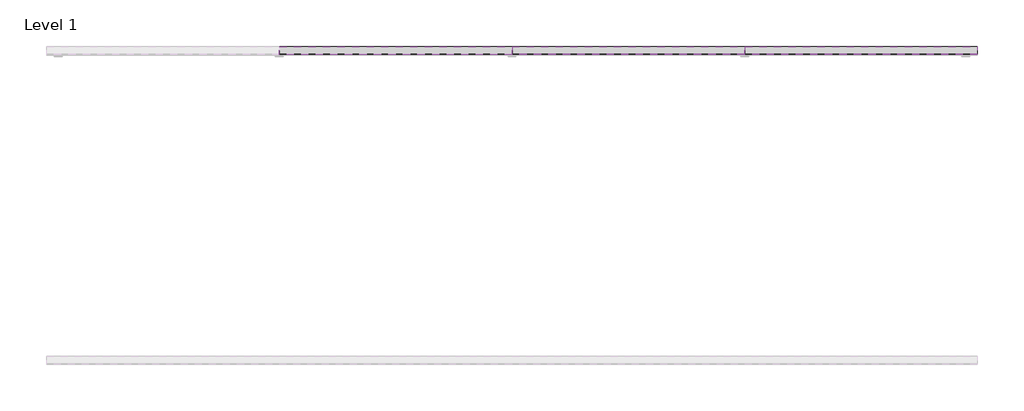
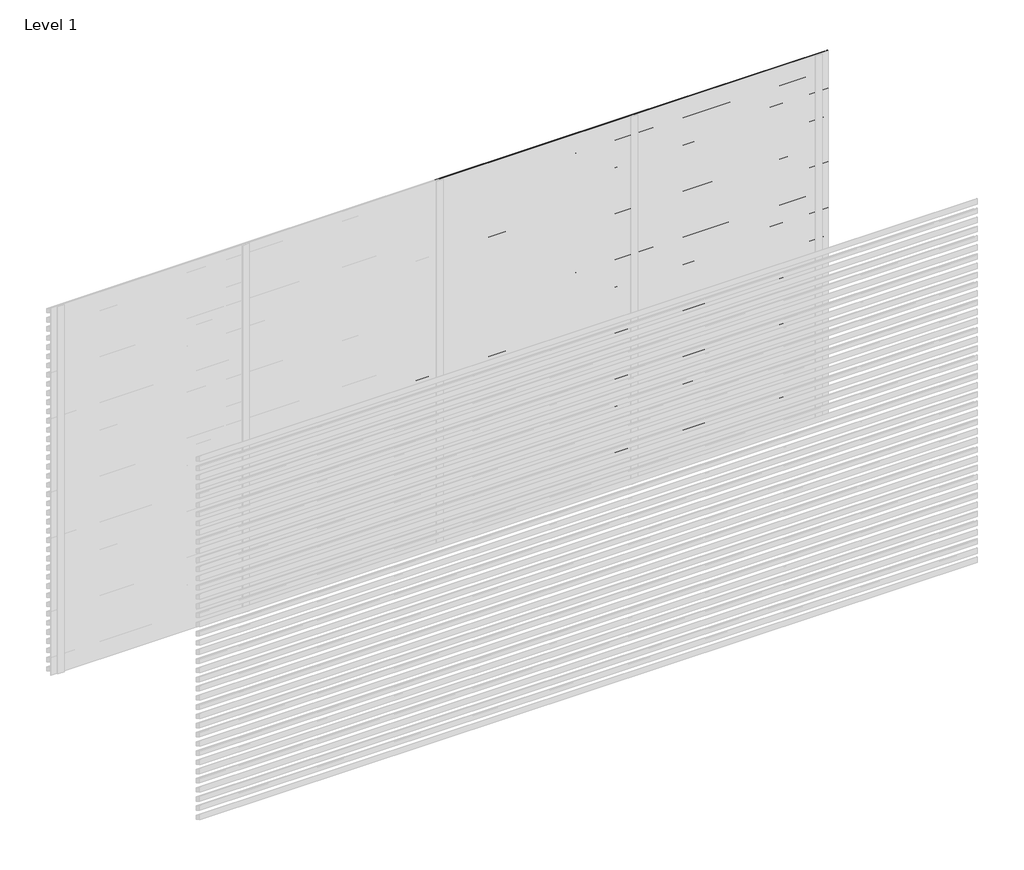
# One storey, part 9 of 9: 100 proxies.
"""IFC4 building model written with IfcOpenShell, lengths in millimetres."""

from ifc_helpers import new_model, si_unit, frame, origin, place, context, project, spatial, polyline, outline, extrude, element, save

model = new_model("IFC4")

# Units and contexts
model_context = context("Model", 3, world=origin())
ifc_project = project(units=[si_unit("LENGTHUNIT", "METRE", prefix="MILLI")], contexts=[model_context])

# Site, building, storey
site = spatial("IfcSite", under=ifc_project)
building = spatial("IfcBuilding", under=site)
storey = spatial("IfcBuildingStorey", under=building, Name="Level 1", Elevation=0.0)

# Proxies
placement = place(None, origin())
element("IfcBuildingElementProxy", 1, Name="Wall Sweeps", at=placement, inside=storey, context=model_context, shape_type="SweptSolid", body=[
    extrude(outline(polyline([(5.0, 1500.0), (5.0, 1491.2901632), (54.0, 1463.0), (54.0, 1428.0), (3.0, 1457.4448637), (3.0, 1500.0), (5.0, 1500.0)])), frame((1500.0, 0.0, 0.0), z_axis=(1.0, 0.0, 0.0), x_axis=(0.0, 1.0, 0.0)), (0.0, 0.0, 1.0), 1500.0),
])
element("IfcBuildingElementProxy", 2, Name="Wall Sweeps", at=placement, inside=storey, context=model_context, shape_type="SweptSolid", body=[
    extrude(outline(polyline([(5.0, 1425.0), (5.0, 1416.2901632), (54.0, 1388.0), (54.0, 1353.0), (3.0, 1382.4448637), (3.0, 1425.0), (5.0, 1425.0)])), frame((1500.0, 0.0, 0.0), z_axis=(1.0, 0.0, 0.0), x_axis=(0.0, 1.0, 0.0)), (0.0, 0.0, 1.0), 1500.0),
])
element("IfcBuildingElementProxy", 3, Name="Wall Sweeps", at=placement, inside=storey, context=model_context, shape_type="SweptSolid", body=[
    extrude(outline(polyline([(5.0, 1350.0), (5.0, 1341.2901632), (54.0, 1313.0), (54.0, 1278.0), (3.0, 1307.4448637), (3.0, 1350.0), (5.0, 1350.0)])), frame((1500.0, 0.0, 0.0), z_axis=(1.0, 0.0, 0.0), x_axis=(0.0, 1.0, 0.0)), (0.0, 0.0, 1.0), 1500.0),
])
element("IfcBuildingElementProxy", 4, Name="Wall Sweeps", at=placement, inside=storey, context=model_context, shape_type="SweptSolid", body=[
    extrude(outline(polyline([(5.0, 1275.0), (5.0, 1266.2901632), (54.0, 1238.0), (54.0, 1203.0), (3.0, 1232.4448637), (3.0, 1275.0), (5.0, 1275.0)])), frame((1500.0, 0.0, 0.0), z_axis=(1.0, 0.0, 0.0), x_axis=(0.0, 1.0, 0.0)), (0.0, 0.0, 1.0), 1500.0),
])
element("IfcBuildingElementProxy", 5, Name="Wall Sweeps", at=placement, inside=storey, context=model_context, shape_type="SweptSolid", body=[
    extrude(outline(polyline([(5.0, 1200.0), (5.0, 1191.2901632), (54.0, 1163.0), (54.0, 1128.0), (3.0, 1157.4448637), (3.0, 1200.0), (5.0, 1200.0)])), frame((1500.0, 0.0, 0.0), z_axis=(1.0, 0.0, 0.0), x_axis=(0.0, 1.0, 0.0)), (0.0, 0.0, 1.0), 1500.0),
])
element("IfcBuildingElementProxy", 6, Name="Wall Sweeps", at=placement, inside=storey, context=model_context, shape_type="SweptSolid", body=[
    extrude(outline(polyline([(5.0, 1125.0), (5.0, 1116.2901632), (54.0, 1088.0), (54.0, 1053.0), (3.0, 1082.4448637), (3.0, 1125.0), (5.0, 1125.0)])), frame((1500.0, 0.0, 0.0), z_axis=(1.0, 0.0, 0.0), x_axis=(0.0, 1.0, 0.0)), (0.0, 0.0, 1.0), 1500.0),
])
element("IfcBuildingElementProxy", 7, Name="Wall Sweeps", at=placement, inside=storey, context=model_context, shape_type="SweptSolid", body=[
    extrude(outline(polyline([(5.0, 1050.0), (5.0, 1041.2901632), (54.0, 1013.0), (54.0, 978.0), (3.0, 1007.4448637), (3.0, 1050.0), (5.0, 1050.0)])), frame((1500.0, 0.0, 0.0), z_axis=(1.0, 0.0, 0.0), x_axis=(0.0, 1.0, 0.0)), (0.0, 0.0, 1.0), 1500.0),
])
element("IfcBuildingElementProxy", 8, Name="Wall Sweeps", at=placement, inside=storey, context=model_context, shape_type="SweptSolid", body=[
    extrude(outline(polyline([(5.0, 975.0), (5.0, 966.2901632), (54.0, 938.0), (54.0, 903.0), (3.0, 932.4448637), (3.0, 975.0), (5.0, 975.0)])), frame((1500.0, 0.0, 0.0), z_axis=(1.0, 0.0, 0.0), x_axis=(0.0, 1.0, 0.0)), (0.0, 0.0, 1.0), 1500.0),
])
element("IfcBuildingElementProxy", 9, Name="Wall Sweeps", at=placement, inside=storey, context=model_context, shape_type="SweptSolid", body=[
    extrude(outline(polyline([(5.0, 900.0), (5.0, 891.2901632), (54.0, 863.0), (54.0, 828.0), (3.0, 857.4448637), (3.0, 900.0), (5.0, 900.0)])), frame((1500.0, 0.0, 0.0), z_axis=(1.0, 0.0, 0.0), x_axis=(0.0, 1.0, 0.0)), (0.0, 0.0, 1.0), 1500.0),
])
element("IfcBuildingElementProxy", 10, Name="Wall Sweeps", at=placement, inside=storey, context=model_context, shape_type="SweptSolid", body=[
    extrude(outline(polyline([(5.0, 825.0), (5.0, 816.2901632), (54.0, 788.0), (54.0, 753.0), (3.0, 782.4448637), (3.0, 825.0), (5.0, 825.0)])), frame((1500.0, 0.0, 0.0), z_axis=(1.0, 0.0, 0.0), x_axis=(0.0, 1.0, 0.0)), (0.0, 0.0, 1.0), 1500.0),
])
element("IfcBuildingElementProxy", 11, Name="Wall Sweeps", at=placement, inside=storey, context=model_context, shape_type="SweptSolid", body=[
    extrude(outline(polyline([(5.0, 750.0), (5.0, 741.2901632), (54.0, 713.0), (54.0, 678.0), (3.0, 707.4448637), (3.0, 750.0), (5.0, 750.0)])), frame((1500.0, 0.0, 0.0), z_axis=(1.0, 0.0, 0.0), x_axis=(0.0, 1.0, 0.0)), (0.0, 0.0, 1.0), 1500.0),
])
element("IfcBuildingElementProxy", 12, Name="Wall Sweeps", at=placement, inside=storey, context=model_context, shape_type="SweptSolid", body=[
    extrude(outline(polyline([(5.0, 675.0), (5.0, 666.2901632), (54.0, 638.0), (54.0, 603.0), (3.0, 632.4448637), (3.0, 675.0), (5.0, 675.0)])), frame((1500.0, 0.0, 0.0), z_axis=(1.0, 0.0, 0.0), x_axis=(0.0, 1.0, 0.0)), (0.0, 0.0, 1.0), 1500.0),
])
element("IfcBuildingElementProxy", 13, Name="Wall Sweeps", at=placement, inside=storey, context=model_context, shape_type="SweptSolid", body=[
    extrude(outline(polyline([(5.0, 600.0), (5.0, 591.2901632), (54.0, 563.0), (54.0, 528.0), (3.0, 557.4448637), (3.0, 600.0), (5.0, 600.0)])), frame((1500.0, 0.0, 0.0), z_axis=(1.0, 0.0, 0.0), x_axis=(0.0, 1.0, 0.0)), (0.0, 0.0, 1.0), 1500.0),
])
element("IfcBuildingElementProxy", 14, Name="Wall Sweeps", at=placement, inside=storey, context=model_context, shape_type="SweptSolid", body=[
    extrude(outline(polyline([(5.0, 525.0), (5.0, 516.2901632), (54.0, 488.0), (54.0, 453.0), (3.0, 482.4448637), (3.0, 525.0), (5.0, 525.0)])), frame((1500.0, 0.0, 0.0), z_axis=(1.0, 0.0, 0.0), x_axis=(0.0, 1.0, 0.0)), (0.0, 0.0, 1.0), 1500.0),
])
element("IfcBuildingElementProxy", 15, Name="Wall Sweeps", at=placement, inside=storey, context=model_context, shape_type="SweptSolid", body=[
    extrude(outline(polyline([(5.0, 450.0), (5.0, 441.2901632), (54.0, 413.0), (54.0, 378.0), (3.0, 407.4448637), (3.0, 450.0), (5.0, 450.0)])), frame((1500.0, 0.0, 0.0), z_axis=(1.0, 0.0, 0.0), x_axis=(0.0, 1.0, 0.0)), (0.0, 0.0, 1.0), 1500.0),
])
element("IfcBuildingElementProxy", 16, Name="Wall Sweeps", at=placement, inside=storey, context=model_context, shape_type="SweptSolid", body=[
    extrude(outline(polyline([(5.0, 375.0), (5.0, 366.2901632), (54.0, 338.0), (54.0, 303.0), (3.0, 332.4448637), (3.0, 375.0), (5.0, 375.0)])), frame((1500.0, 0.0, 0.0), z_axis=(1.0, 0.0, 0.0), x_axis=(0.0, 1.0, 0.0)), (0.0, 0.0, 1.0), 1500.0),
])
element("IfcBuildingElementProxy", 17, Name="Wall Sweeps", at=placement, inside=storey, context=model_context, shape_type="SweptSolid", body=[
    extrude(outline(polyline([(5.0, 300.0), (5.0, 291.2901632), (54.0, 263.0), (54.0, 228.0), (3.0, 257.4448637), (3.0, 300.0), (5.0, 300.0)])), frame((1500.0, 0.0, 0.0), z_axis=(1.0, 0.0, 0.0), x_axis=(0.0, 1.0, 0.0)), (0.0, 0.0, 1.0), 1500.0),
])
element("IfcBuildingElementProxy", 18, Name="Wall Sweeps", at=placement, inside=storey, context=model_context, shape_type="SweptSolid", body=[
    extrude(outline(polyline([(5.0, 225.0), (5.0, 216.2901632), (54.0, 188.0), (54.0, 153.0), (3.0, 182.4448637), (3.0, 225.0), (5.0, 225.0)])), frame((1500.0, 0.0, 0.0), z_axis=(1.0, 0.0, 0.0), x_axis=(0.0, 1.0, 0.0)), (0.0, 0.0, 1.0), 1500.0),
])
element("IfcBuildingElementProxy", 19, Name="Wall Sweeps", at=placement, inside=storey, context=model_context, shape_type="SweptSolid", body=[
    extrude(outline(polyline([(5.0, 150.0), (5.0, 141.2901632), (54.0, 113.0), (54.0, 78.0), (3.0, 107.4448637), (3.0, 150.0), (5.0, 150.0)])), frame((1500.0, 0.0, 0.0), z_axis=(1.0, 0.0, 0.0), x_axis=(0.0, 1.0, 0.0)), (0.0, 0.0, 1.0), 1500.0),
])
element("IfcBuildingElementProxy", 20, Name="Wall Sweeps", at=placement, inside=storey, context=model_context, shape_type="SweptSolid", body=[
    extrude(outline(polyline([(5.0, 75.0), (5.0, 66.2901632), (54.0, 38.0), (54.0, 3.0), (3.0, 32.4448637), (3.0, 75.0), (5.0, 75.0)])), frame((1500.0, 0.0, 0.0), z_axis=(1.0, 0.0, 0.0), x_axis=(0.0, 1.0, 0.0)), (0.0, 0.0, 1.0), 1500.0),
])
element("IfcBuildingElementProxy", 21, Name="Wall Sweeps", at=placement, inside=storey, context=model_context, shape_type="SweptSolid", body=[
    extrude(outline(polyline([(5.0, 3000.0), (5.0, 2991.2901632), (54.0, 2963.0), (54.0, 2928.0), (3.0, 2957.4448637), (3.0, 3000.0), (5.0, 3000.0)])), frame((3000.0, 0.0, 0.0), z_axis=(1.0, 0.0, 0.0), x_axis=(0.0, 1.0, 0.0)), (0.0, 0.0, 1.0), 1500.0),
])
element("IfcBuildingElementProxy", 22, Name="Wall Sweeps", at=placement, inside=storey, context=model_context, shape_type="SweptSolid", body=[
    extrude(outline(polyline([(5.0, 2925.0), (5.0, 2916.2901632), (54.0, 2888.0), (54.0, 2853.0), (3.0, 2882.4448637), (3.0, 2925.0), (5.0, 2925.0)])), frame((3000.0, 0.0, 0.0), z_axis=(1.0, 0.0, 0.0), x_axis=(0.0, 1.0, 0.0)), (0.0, 0.0, 1.0), 1500.0),
])
element("IfcBuildingElementProxy", 23, Name="Wall Sweeps", at=placement, inside=storey, context=model_context, shape_type="SweptSolid", body=[
    extrude(outline(polyline([(5.0, 2850.0), (5.0, 2841.2901632), (54.0, 2813.0), (54.0, 2778.0), (3.0, 2807.4448637), (3.0, 2850.0), (5.0, 2850.0)])), frame((3000.0, 0.0, 0.0), z_axis=(1.0, 0.0, 0.0), x_axis=(0.0, 1.0, 0.0)), (0.0, 0.0, 1.0), 1500.0),
])
element("IfcBuildingElementProxy", 24, Name="Wall Sweeps", at=placement, inside=storey, context=model_context, shape_type="SweptSolid", body=[
    extrude(outline(polyline([(5.0, 2775.0), (5.0, 2766.2901632), (54.0, 2738.0), (54.0, 2703.0), (3.0, 2732.4448637), (3.0, 2775.0), (5.0, 2775.0)])), frame((3000.0, 0.0, 0.0), z_axis=(1.0, 0.0, 0.0), x_axis=(0.0, 1.0, 0.0)), (0.0, 0.0, 1.0), 1500.0),
])
element("IfcBuildingElementProxy", 25, Name="Wall Sweeps", at=placement, inside=storey, context=model_context, shape_type="SweptSolid", body=[
    extrude(outline(polyline([(5.0, 2700.0), (5.0, 2691.2901632), (54.0, 2663.0), (54.0, 2628.0), (3.0, 2657.4448637), (3.0, 2700.0), (5.0, 2700.0)])), frame((3000.0, 0.0, 0.0), z_axis=(1.0, 0.0, 0.0), x_axis=(0.0, 1.0, 0.0)), (0.0, 0.0, 1.0), 1500.0),
])
element("IfcBuildingElementProxy", 26, Name="Wall Sweeps", at=placement, inside=storey, context=model_context, shape_type="SweptSolid", body=[
    extrude(outline(polyline([(5.0, 2625.0), (5.0, 2616.2901632), (54.0, 2588.0), (54.0, 2553.0), (3.0, 2582.4448637), (3.0, 2625.0), (5.0, 2625.0)])), frame((3000.0, 0.0, 0.0), z_axis=(1.0, 0.0, 0.0), x_axis=(0.0, 1.0, 0.0)), (0.0, 0.0, 1.0), 1500.0),
])
element("IfcBuildingElementProxy", 27, Name="Wall Sweeps", at=placement, inside=storey, context=model_context, shape_type="SweptSolid", body=[
    extrude(outline(polyline([(5.0, 2550.0), (5.0, 2541.2901632), (54.0, 2513.0), (54.0, 2478.0), (3.0, 2507.4448637), (3.0, 2550.0), (5.0, 2550.0)])), frame((3000.0, 0.0, 0.0), z_axis=(1.0, 0.0, 0.0), x_axis=(0.0, 1.0, 0.0)), (0.0, 0.0, 1.0), 1500.0),
])
element("IfcBuildingElementProxy", 28, Name="Wall Sweeps", at=placement, inside=storey, context=model_context, shape_type="SweptSolid", body=[
    extrude(outline(polyline([(5.0, 2475.0), (5.0, 2466.2901632), (54.0, 2438.0), (54.0, 2403.0), (3.0, 2432.4448637), (3.0, 2475.0), (5.0, 2475.0)])), frame((3000.0, 0.0, 0.0), z_axis=(1.0, 0.0, 0.0), x_axis=(0.0, 1.0, 0.0)), (0.0, 0.0, 1.0), 1500.0),
])
element("IfcBuildingElementProxy", 29, Name="Wall Sweeps", at=placement, inside=storey, context=model_context, shape_type="SweptSolid", body=[
    extrude(outline(polyline([(5.0, 2400.0), (5.0, 2391.2901632), (54.0, 2363.0), (54.0, 2328.0), (3.0, 2357.4448637), (3.0, 2400.0), (5.0, 2400.0)])), frame((3000.0, 0.0, 0.0), z_axis=(1.0, 0.0, 0.0), x_axis=(0.0, 1.0, 0.0)), (0.0, 0.0, 1.0), 1500.0),
])
element("IfcBuildingElementProxy", 30, Name="Wall Sweeps", at=placement, inside=storey, context=model_context, shape_type="SweptSolid", body=[
    extrude(outline(polyline([(5.0, 2325.0), (5.0, 2316.2901632), (54.0, 2288.0), (54.0, 2253.0), (3.0, 2282.4448637), (3.0, 2325.0), (5.0, 2325.0)])), frame((3000.0, 0.0, 0.0), z_axis=(1.0, 0.0, 0.0), x_axis=(0.0, 1.0, 0.0)), (0.0, 0.0, 1.0), 1500.0),
])
element("IfcBuildingElementProxy", 31, Name="Wall Sweeps", at=placement, inside=storey, context=model_context, shape_type="SweptSolid", body=[
    extrude(outline(polyline([(5.0, 2250.0), (5.0, 2241.2901632), (54.0, 2213.0), (54.0, 2178.0), (3.0, 2207.4448637), (3.0, 2250.0), (5.0, 2250.0)])), frame((3000.0, 0.0, 0.0), z_axis=(1.0, 0.0, 0.0), x_axis=(0.0, 1.0, 0.0)), (0.0, 0.0, 1.0), 1500.0),
])
element("IfcBuildingElementProxy", 32, Name="Wall Sweeps", at=placement, inside=storey, context=model_context, shape_type="SweptSolid", body=[
    extrude(outline(polyline([(5.0, 2175.0), (5.0, 2166.2901632), (54.0, 2138.0), (54.0, 2103.0), (3.0, 2132.4448637), (3.0, 2175.0), (5.0, 2175.0)])), frame((3000.0, 0.0, 0.0), z_axis=(1.0, 0.0, 0.0), x_axis=(0.0, 1.0, 0.0)), (0.0, 0.0, 1.0), 1500.0),
])
element("IfcBuildingElementProxy", 33, Name="Wall Sweeps", at=placement, inside=storey, context=model_context, shape_type="SweptSolid", body=[
    extrude(outline(polyline([(5.0, 2100.0), (5.0, 2091.2901632), (54.0, 2063.0), (54.0, 2028.0), (3.0, 2057.4448637), (3.0, 2100.0), (5.0, 2100.0)])), frame((3000.0, 0.0, 0.0), z_axis=(1.0, 0.0, 0.0), x_axis=(0.0, 1.0, 0.0)), (0.0, 0.0, 1.0), 1500.0),
])
element("IfcBuildingElementProxy", 34, Name="Wall Sweeps", at=placement, inside=storey, context=model_context, shape_type="SweptSolid", body=[
    extrude(outline(polyline([(5.0, 2025.0), (5.0, 2016.2901632), (54.0, 1988.0), (54.0, 1953.0), (3.0, 1982.4448637), (3.0, 2025.0), (5.0, 2025.0)])), frame((3000.0, 0.0, 0.0), z_axis=(1.0, 0.0, 0.0), x_axis=(0.0, 1.0, 0.0)), (0.0, 0.0, 1.0), 1500.0),
])
element("IfcBuildingElementProxy", 35, Name="Wall Sweeps", at=placement, inside=storey, context=model_context, shape_type="SweptSolid", body=[
    extrude(outline(polyline([(5.0, 1950.0), (5.0, 1941.2901632), (54.0, 1913.0), (54.0, 1878.0), (3.0, 1907.4448637), (3.0, 1950.0), (5.0, 1950.0)])), frame((3000.0, 0.0, 0.0), z_axis=(1.0, 0.0, 0.0), x_axis=(0.0, 1.0, 0.0)), (0.0, 0.0, 1.0), 1500.0),
])
element("IfcBuildingElementProxy", 36, Name="Wall Sweeps", at=placement, inside=storey, context=model_context, shape_type="SweptSolid", body=[
    extrude(outline(polyline([(5.0, 1875.0), (5.0, 1866.2901632), (54.0, 1838.0), (54.0, 1803.0), (3.0, 1832.4448637), (3.0, 1875.0), (5.0, 1875.0)])), frame((3000.0, 0.0, 0.0), z_axis=(1.0, 0.0, 0.0), x_axis=(0.0, 1.0, 0.0)), (0.0, 0.0, 1.0), 1500.0),
])
element("IfcBuildingElementProxy", 37, Name="Wall Sweeps", at=placement, inside=storey, context=model_context, shape_type="SweptSolid", body=[
    extrude(outline(polyline([(5.0, 1800.0), (5.0, 1791.2901632), (54.0, 1763.0), (54.0, 1728.0), (3.0, 1757.4448637), (3.0, 1800.0), (5.0, 1800.0)])), frame((3000.0, 0.0, 0.0), z_axis=(1.0, 0.0, 0.0), x_axis=(0.0, 1.0, 0.0)), (0.0, 0.0, 1.0), 1500.0),
])
element("IfcBuildingElementProxy", 38, Name="Wall Sweeps", at=placement, inside=storey, context=model_context, shape_type="SweptSolid", body=[
    extrude(outline(polyline([(5.0, 1725.0), (5.0, 1716.2901632), (54.0, 1688.0), (54.0, 1653.0), (3.0, 1682.4448637), (3.0, 1725.0), (5.0, 1725.0)])), frame((3000.0, 0.0, 0.0), z_axis=(1.0, 0.0, 0.0), x_axis=(0.0, 1.0, 0.0)), (0.0, 0.0, 1.0), 1500.0),
])
element("IfcBuildingElementProxy", 39, Name="Wall Sweeps", at=placement, inside=storey, context=model_context, shape_type="SweptSolid", body=[
    extrude(outline(polyline([(5.0, 1650.0), (5.0, 1641.2901632), (54.0, 1613.0), (54.0, 1578.0), (3.0, 1607.4448637), (3.0, 1650.0), (5.0, 1650.0)])), frame((3000.0, 0.0, 0.0), z_axis=(1.0, 0.0, 0.0), x_axis=(0.0, 1.0, 0.0)), (0.0, 0.0, 1.0), 1500.0),
])
element("IfcBuildingElementProxy", 40, Name="Wall Sweeps", at=placement, inside=storey, context=model_context, shape_type="SweptSolid", body=[
    extrude(outline(polyline([(5.0, 1575.0), (5.0, 1566.2901632), (54.0, 1538.0), (54.0, 1503.0), (3.0, 1532.4448637), (3.0, 1575.0), (5.0, 1575.0)])), frame((3000.0, 0.0, 0.0), z_axis=(1.0, 0.0, 0.0), x_axis=(0.0, 1.0, 0.0)), (0.0, 0.0, 1.0), 1500.0),
])
element("IfcBuildingElementProxy", 41, Name="Wall Sweeps", at=placement, inside=storey, context=model_context, shape_type="SweptSolid", body=[
    extrude(outline(polyline([(5.0, 1500.0), (5.0, 1491.2901632), (54.0, 1463.0), (54.0, 1428.0), (3.0, 1457.4448637), (3.0, 1500.0), (5.0, 1500.0)])), frame((3000.0, 0.0, 0.0), z_axis=(1.0, 0.0, 0.0), x_axis=(0.0, 1.0, 0.0)), (0.0, 0.0, 1.0), 1500.0),
])
element("IfcBuildingElementProxy", 42, Name="Wall Sweeps", at=placement, inside=storey, context=model_context, shape_type="SweptSolid", body=[
    extrude(outline(polyline([(5.0, 1425.0), (5.0, 1416.2901632), (54.0, 1388.0), (54.0, 1353.0), (3.0, 1382.4448637), (3.0, 1425.0), (5.0, 1425.0)])), frame((3000.0, 0.0, 0.0), z_axis=(1.0, 0.0, 0.0), x_axis=(0.0, 1.0, 0.0)), (0.0, 0.0, 1.0), 1500.0),
])
element("IfcBuildingElementProxy", 43, Name="Wall Sweeps", at=placement, inside=storey, context=model_context, shape_type="SweptSolid", body=[
    extrude(outline(polyline([(5.0, 1350.0), (5.0, 1341.2901632), (54.0, 1313.0), (54.0, 1278.0), (3.0, 1307.4448637), (3.0, 1350.0), (5.0, 1350.0)])), frame((3000.0, 0.0, 0.0), z_axis=(1.0, 0.0, 0.0), x_axis=(0.0, 1.0, 0.0)), (0.0, 0.0, 1.0), 1500.0),
])
element("IfcBuildingElementProxy", 44, Name="Wall Sweeps", at=placement, inside=storey, context=model_context, shape_type="SweptSolid", body=[
    extrude(outline(polyline([(5.0, 1275.0), (5.0, 1266.2901632), (54.0, 1238.0), (54.0, 1203.0), (3.0, 1232.4448637), (3.0, 1275.0), (5.0, 1275.0)])), frame((3000.0, 0.0, 0.0), z_axis=(1.0, 0.0, 0.0), x_axis=(0.0, 1.0, 0.0)), (0.0, 0.0, 1.0), 1500.0),
])
element("IfcBuildingElementProxy", 45, Name="Wall Sweeps", at=placement, inside=storey, context=model_context, shape_type="SweptSolid", body=[
    extrude(outline(polyline([(5.0, 1200.0), (5.0, 1191.2901632), (54.0, 1163.0), (54.0, 1128.0), (3.0, 1157.4448637), (3.0, 1200.0), (5.0, 1200.0)])), frame((3000.0, 0.0, 0.0), z_axis=(1.0, 0.0, 0.0), x_axis=(0.0, 1.0, 0.0)), (0.0, 0.0, 1.0), 1500.0),
])
element("IfcBuildingElementProxy", 46, Name="Wall Sweeps", at=placement, inside=storey, context=model_context, shape_type="SweptSolid", body=[
    extrude(outline(polyline([(5.0, 1125.0), (5.0, 1116.2901632), (54.0, 1088.0), (54.0, 1053.0), (3.0, 1082.4448637), (3.0, 1125.0), (5.0, 1125.0)])), frame((3000.0, 0.0, 0.0), z_axis=(1.0, 0.0, 0.0), x_axis=(0.0, 1.0, 0.0)), (0.0, 0.0, 1.0), 1500.0),
])
element("IfcBuildingElementProxy", 47, Name="Wall Sweeps", at=placement, inside=storey, context=model_context, shape_type="SweptSolid", body=[
    extrude(outline(polyline([(5.0, 1050.0), (5.0, 1041.2901632), (54.0, 1013.0), (54.0, 978.0), (3.0, 1007.4448637), (3.0, 1050.0), (5.0, 1050.0)])), frame((3000.0, 0.0, 0.0), z_axis=(1.0, 0.0, 0.0), x_axis=(0.0, 1.0, 0.0)), (0.0, 0.0, 1.0), 1500.0),
])
element("IfcBuildingElementProxy", 48, Name="Wall Sweeps", at=placement, inside=storey, context=model_context, shape_type="SweptSolid", body=[
    extrude(outline(polyline([(5.0, 975.0), (5.0, 966.2901632), (54.0, 938.0), (54.0, 903.0), (3.0, 932.4448637), (3.0, 975.0), (5.0, 975.0)])), frame((3000.0, 0.0, 0.0), z_axis=(1.0, 0.0, 0.0), x_axis=(0.0, 1.0, 0.0)), (0.0, 0.0, 1.0), 1500.0),
])
element("IfcBuildingElementProxy", 49, Name="Wall Sweeps", at=placement, inside=storey, context=model_context, shape_type="SweptSolid", body=[
    extrude(outline(polyline([(5.0, 900.0), (5.0, 891.2901632), (54.0, 863.0), (54.0, 828.0), (3.0, 857.4448637), (3.0, 900.0), (5.0, 900.0)])), frame((3000.0, 0.0, 0.0), z_axis=(1.0, 0.0, 0.0), x_axis=(0.0, 1.0, 0.0)), (0.0, 0.0, 1.0), 1500.0),
])
element("IfcBuildingElementProxy", 50, Name="Wall Sweeps", at=placement, inside=storey, context=model_context, shape_type="SweptSolid", body=[
    extrude(outline(polyline([(5.0, 825.0), (5.0, 816.2901632), (54.0, 788.0), (54.0, 753.0), (3.0, 782.4448637), (3.0, 825.0), (5.0, 825.0)])), frame((3000.0, 0.0, 0.0), z_axis=(1.0, 0.0, 0.0), x_axis=(0.0, 1.0, 0.0)), (0.0, 0.0, 1.0), 1500.0),
])
element("IfcBuildingElementProxy", 51, Name="Wall Sweeps", at=placement, inside=storey, context=model_context, shape_type="SweptSolid", body=[
    extrude(outline(polyline([(5.0, 750.0), (5.0, 741.2901632), (54.0, 713.0), (54.0, 678.0), (3.0, 707.4448637), (3.0, 750.0), (5.0, 750.0)])), frame((3000.0, 0.0, 0.0), z_axis=(1.0, 0.0, 0.0), x_axis=(0.0, 1.0, 0.0)), (0.0, 0.0, 1.0), 1500.0),
])
element("IfcBuildingElementProxy", 52, Name="Wall Sweeps", at=placement, inside=storey, context=model_context, shape_type="SweptSolid", body=[
    extrude(outline(polyline([(5.0, 675.0), (5.0, 666.2901632), (54.0, 638.0), (54.0, 603.0), (3.0, 632.4448637), (3.0, 675.0), (5.0, 675.0)])), frame((3000.0, 0.0, 0.0), z_axis=(1.0, 0.0, 0.0), x_axis=(0.0, 1.0, 0.0)), (0.0, 0.0, 1.0), 1500.0),
])
element("IfcBuildingElementProxy", 53, Name="Wall Sweeps", at=placement, inside=storey, context=model_context, shape_type="SweptSolid", body=[
    extrude(outline(polyline([(5.0, 600.0), (5.0, 591.2901632), (54.0, 563.0), (54.0, 528.0), (3.0, 557.4448637), (3.0, 600.0), (5.0, 600.0)])), frame((3000.0, 0.0, 0.0), z_axis=(1.0, 0.0, 0.0), x_axis=(0.0, 1.0, 0.0)), (0.0, 0.0, 1.0), 1500.0),
])
element("IfcBuildingElementProxy", 54, Name="Wall Sweeps", at=placement, inside=storey, context=model_context, shape_type="SweptSolid", body=[
    extrude(outline(polyline([(5.0, 525.0), (5.0, 516.2901632), (54.0, 488.0), (54.0, 453.0), (3.0, 482.4448637), (3.0, 525.0), (5.0, 525.0)])), frame((3000.0, 0.0, 0.0), z_axis=(1.0, 0.0, 0.0), x_axis=(0.0, 1.0, 0.0)), (0.0, 0.0, 1.0), 1500.0),
])
element("IfcBuildingElementProxy", 55, Name="Wall Sweeps", at=placement, inside=storey, context=model_context, shape_type="SweptSolid", body=[
    extrude(outline(polyline([(5.0, 450.0), (5.0, 441.2901632), (54.0, 413.0), (54.0, 378.0), (3.0, 407.4448637), (3.0, 450.0), (5.0, 450.0)])), frame((3000.0, 0.0, 0.0), z_axis=(1.0, 0.0, 0.0), x_axis=(0.0, 1.0, 0.0)), (0.0, 0.0, 1.0), 1500.0),
])
element("IfcBuildingElementProxy", 56, Name="Wall Sweeps", at=placement, inside=storey, context=model_context, shape_type="SweptSolid", body=[
    extrude(outline(polyline([(5.0, 375.0), (5.0, 366.2901632), (54.0, 338.0), (54.0, 303.0), (3.0, 332.4448637), (3.0, 375.0), (5.0, 375.0)])), frame((3000.0, 0.0, 0.0), z_axis=(1.0, 0.0, 0.0), x_axis=(0.0, 1.0, 0.0)), (0.0, 0.0, 1.0), 1500.0),
])
element("IfcBuildingElementProxy", 57, Name="Wall Sweeps", at=placement, inside=storey, context=model_context, shape_type="SweptSolid", body=[
    extrude(outline(polyline([(5.0, 300.0), (5.0, 291.2901632), (54.0, 263.0), (54.0, 228.0), (3.0, 257.4448637), (3.0, 300.0), (5.0, 300.0)])), frame((3000.0, 0.0, 0.0), z_axis=(1.0, 0.0, 0.0), x_axis=(0.0, 1.0, 0.0)), (0.0, 0.0, 1.0), 1500.0),
])
element("IfcBuildingElementProxy", 58, Name="Wall Sweeps", at=placement, inside=storey, context=model_context, shape_type="SweptSolid", body=[
    extrude(outline(polyline([(5.0, 225.0), (5.0, 216.2901632), (54.0, 188.0), (54.0, 153.0), (3.0, 182.4448637), (3.0, 225.0), (5.0, 225.0)])), frame((3000.0, 0.0, 0.0), z_axis=(1.0, 0.0, 0.0), x_axis=(0.0, 1.0, 0.0)), (0.0, 0.0, 1.0), 1500.0),
])
element("IfcBuildingElementProxy", 59, Name="Wall Sweeps", at=placement, inside=storey, context=model_context, shape_type="SweptSolid", body=[
    extrude(outline(polyline([(5.0, 150.0), (5.0, 141.2901632), (54.0, 113.0), (54.0, 78.0), (3.0, 107.4448637), (3.0, 150.0), (5.0, 150.0)])), frame((3000.0, 0.0, 0.0), z_axis=(1.0, 0.0, 0.0), x_axis=(0.0, 1.0, 0.0)), (0.0, 0.0, 1.0), 1500.0),
])
element("IfcBuildingElementProxy", 60, Name="Wall Sweeps", at=placement, inside=storey, context=model_context, shape_type="SweptSolid", body=[
    extrude(outline(polyline([(5.0, 75.0), (5.0, 66.2901632), (54.0, 38.0), (54.0, 3.0), (3.0, 32.4448637), (3.0, 75.0), (5.0, 75.0)])), frame((3000.0, 0.0, 0.0), z_axis=(1.0, 0.0, 0.0), x_axis=(0.0, 1.0, 0.0)), (0.0, 0.0, 1.0), 1500.0),
])
element("IfcBuildingElementProxy", 61, Name="Wall Sweeps", at=placement, inside=storey, context=model_context, shape_type="SweptSolid", body=[
    extrude(outline(polyline([(5.0, 3000.0), (5.0, 2991.2901632), (54.0, 2963.0), (54.0, 2928.0), (3.0, 2957.4448637), (3.0, 3000.0), (5.0, 3000.0)])), frame((4500.0, 0.0, 0.0), z_axis=(1.0, 0.0, 0.0), x_axis=(0.0, 1.0, 0.0)), (0.0, 0.0, 1.0), 1500.0),
])
element("IfcBuildingElementProxy", 62, Name="Wall Sweeps", at=placement, inside=storey, context=model_context, shape_type="SweptSolid", body=[
    extrude(outline(polyline([(5.0, 2925.0), (5.0, 2916.2901632), (54.0, 2888.0), (54.0, 2853.0), (3.0, 2882.4448637), (3.0, 2925.0), (5.0, 2925.0)])), frame((4500.0, 0.0, 0.0), z_axis=(1.0, 0.0, 0.0), x_axis=(0.0, 1.0, 0.0)), (0.0, 0.0, 1.0), 1500.0),
])
element("IfcBuildingElementProxy", 63, Name="Wall Sweeps", at=placement, inside=storey, context=model_context, shape_type="SweptSolid", body=[
    extrude(outline(polyline([(5.0, 2850.0), (5.0, 2841.2901632), (54.0, 2813.0), (54.0, 2778.0), (3.0, 2807.4448637), (3.0, 2850.0), (5.0, 2850.0)])), frame((4500.0, 0.0, 0.0), z_axis=(1.0, 0.0, 0.0), x_axis=(0.0, 1.0, 0.0)), (0.0, 0.0, 1.0), 1500.0),
])
element("IfcBuildingElementProxy", 64, Name="Wall Sweeps", at=placement, inside=storey, context=model_context, shape_type="SweptSolid", body=[
    extrude(outline(polyline([(5.0, 2775.0), (5.0, 2766.2901632), (54.0, 2738.0), (54.0, 2703.0), (3.0, 2732.4448637), (3.0, 2775.0), (5.0, 2775.0)])), frame((4500.0, 0.0, 0.0), z_axis=(1.0, 0.0, 0.0), x_axis=(0.0, 1.0, 0.0)), (0.0, 0.0, 1.0), 1500.0),
])
element("IfcBuildingElementProxy", 65, Name="Wall Sweeps", at=placement, inside=storey, context=model_context, shape_type="SweptSolid", body=[
    extrude(outline(polyline([(5.0, 2700.0), (5.0, 2691.2901632), (54.0, 2663.0), (54.0, 2628.0), (3.0, 2657.4448637), (3.0, 2700.0), (5.0, 2700.0)])), frame((4500.0, 0.0, 0.0), z_axis=(1.0, 0.0, 0.0), x_axis=(0.0, 1.0, 0.0)), (0.0, 0.0, 1.0), 1500.0),
])
element("IfcBuildingElementProxy", 66, Name="Wall Sweeps", at=placement, inside=storey, context=model_context, shape_type="SweptSolid", body=[
    extrude(outline(polyline([(5.0, 2625.0), (5.0, 2616.2901632), (54.0, 2588.0), (54.0, 2553.0), (3.0, 2582.4448637), (3.0, 2625.0), (5.0, 2625.0)])), frame((4500.0, 0.0, 0.0), z_axis=(1.0, 0.0, 0.0), x_axis=(0.0, 1.0, 0.0)), (0.0, 0.0, 1.0), 1500.0),
])
element("IfcBuildingElementProxy", 67, Name="Wall Sweeps", at=placement, inside=storey, context=model_context, shape_type="SweptSolid", body=[
    extrude(outline(polyline([(5.0, 2550.0), (5.0, 2541.2901632), (54.0, 2513.0), (54.0, 2478.0), (3.0, 2507.4448637), (3.0, 2550.0), (5.0, 2550.0)])), frame((4500.0, 0.0, 0.0), z_axis=(1.0, 0.0, 0.0), x_axis=(0.0, 1.0, 0.0)), (0.0, 0.0, 1.0), 1500.0),
])
element("IfcBuildingElementProxy", 68, Name="Wall Sweeps", at=placement, inside=storey, context=model_context, shape_type="SweptSolid", body=[
    extrude(outline(polyline([(5.0, 2475.0), (5.0, 2466.2901632), (54.0, 2438.0), (54.0, 2403.0), (3.0, 2432.4448637), (3.0, 2475.0), (5.0, 2475.0)])), frame((4500.0, 0.0, 0.0), z_axis=(1.0, 0.0, 0.0), x_axis=(0.0, 1.0, 0.0)), (0.0, 0.0, 1.0), 1500.0),
])
element("IfcBuildingElementProxy", 69, Name="Wall Sweeps", at=placement, inside=storey, context=model_context, shape_type="SweptSolid", body=[
    extrude(outline(polyline([(5.0, 2400.0), (5.0, 2391.2901632), (54.0, 2363.0), (54.0, 2328.0), (3.0, 2357.4448637), (3.0, 2400.0), (5.0, 2400.0)])), frame((4500.0, 0.0, 0.0), z_axis=(1.0, 0.0, 0.0), x_axis=(0.0, 1.0, 0.0)), (0.0, 0.0, 1.0), 1500.0),
])
element("IfcBuildingElementProxy", 70, Name="Wall Sweeps", at=placement, inside=storey, context=model_context, shape_type="SweptSolid", body=[
    extrude(outline(polyline([(5.0, 2325.0), (5.0, 2316.2901632), (54.0, 2288.0), (54.0, 2253.0), (3.0, 2282.4448637), (3.0, 2325.0), (5.0, 2325.0)])), frame((4500.0, 0.0, 0.0), z_axis=(1.0, 0.0, 0.0), x_axis=(0.0, 1.0, 0.0)), (0.0, 0.0, 1.0), 1500.0),
])
element("IfcBuildingElementProxy", 71, Name="Wall Sweeps", at=placement, inside=storey, context=model_context, shape_type="SweptSolid", body=[
    extrude(outline(polyline([(5.0, 2250.0), (5.0, 2241.2901632), (54.0, 2213.0), (54.0, 2178.0), (3.0, 2207.4448637), (3.0, 2250.0), (5.0, 2250.0)])), frame((4500.0, 0.0, 0.0), z_axis=(1.0, 0.0, 0.0), x_axis=(0.0, 1.0, 0.0)), (0.0, 0.0, 1.0), 1500.0),
])
element("IfcBuildingElementProxy", 72, Name="Wall Sweeps", at=placement, inside=storey, context=model_context, shape_type="SweptSolid", body=[
    extrude(outline(polyline([(5.0, 2175.0), (5.0, 2166.2901632), (54.0, 2138.0), (54.0, 2103.0), (3.0, 2132.4448637), (3.0, 2175.0), (5.0, 2175.0)])), frame((4500.0, 0.0, 0.0), z_axis=(1.0, 0.0, 0.0), x_axis=(0.0, 1.0, 0.0)), (0.0, 0.0, 1.0), 1500.0),
])
element("IfcBuildingElementProxy", 73, Name="Wall Sweeps", at=placement, inside=storey, context=model_context, shape_type="SweptSolid", body=[
    extrude(outline(polyline([(5.0, 2100.0), (5.0, 2091.2901632), (54.0, 2063.0), (54.0, 2028.0), (3.0, 2057.4448637), (3.0, 2100.0), (5.0, 2100.0)])), frame((4500.0, 0.0, 0.0), z_axis=(1.0, 0.0, 0.0), x_axis=(0.0, 1.0, 0.0)), (0.0, 0.0, 1.0), 1500.0),
])
element("IfcBuildingElementProxy", 74, Name="Wall Sweeps", at=placement, inside=storey, context=model_context, shape_type="SweptSolid", body=[
    extrude(outline(polyline([(5.0, 2025.0), (5.0, 2016.2901632), (54.0, 1988.0), (54.0, 1953.0), (3.0, 1982.4448637), (3.0, 2025.0), (5.0, 2025.0)])), frame((4500.0, 0.0, 0.0), z_axis=(1.0, 0.0, 0.0), x_axis=(0.0, 1.0, 0.0)), (0.0, 0.0, 1.0), 1500.0),
])
element("IfcBuildingElementProxy", 75, Name="Wall Sweeps", at=placement, inside=storey, context=model_context, shape_type="SweptSolid", body=[
    extrude(outline(polyline([(5.0, 1950.0), (5.0, 1941.2901632), (54.0, 1913.0), (54.0, 1878.0), (3.0, 1907.4448637), (3.0, 1950.0), (5.0, 1950.0)])), frame((4500.0, 0.0, 0.0), z_axis=(1.0, 0.0, 0.0), x_axis=(0.0, 1.0, 0.0)), (0.0, 0.0, 1.0), 1500.0),
])
element("IfcBuildingElementProxy", 76, Name="Wall Sweeps", at=placement, inside=storey, context=model_context, shape_type="SweptSolid", body=[
    extrude(outline(polyline([(5.0, 1875.0), (5.0, 1866.2901632), (54.0, 1838.0), (54.0, 1803.0), (3.0, 1832.4448637), (3.0, 1875.0), (5.0, 1875.0)])), frame((4500.0, 0.0, 0.0), z_axis=(1.0, 0.0, 0.0), x_axis=(0.0, 1.0, 0.0)), (0.0, 0.0, 1.0), 1500.0),
])
element("IfcBuildingElementProxy", 77, Name="Wall Sweeps", at=placement, inside=storey, context=model_context, shape_type="SweptSolid", body=[
    extrude(outline(polyline([(5.0, 1800.0), (5.0, 1791.2901632), (54.0, 1763.0), (54.0, 1728.0), (3.0, 1757.4448637), (3.0, 1800.0), (5.0, 1800.0)])), frame((4500.0, 0.0, 0.0), z_axis=(1.0, 0.0, 0.0), x_axis=(0.0, 1.0, 0.0)), (0.0, 0.0, 1.0), 1500.0),
])
element("IfcBuildingElementProxy", 78, Name="Wall Sweeps", at=placement, inside=storey, context=model_context, shape_type="SweptSolid", body=[
    extrude(outline(polyline([(5.0, 1725.0), (5.0, 1716.2901632), (54.0, 1688.0), (54.0, 1653.0), (3.0, 1682.4448637), (3.0, 1725.0), (5.0, 1725.0)])), frame((4500.0, 0.0, 0.0), z_axis=(1.0, 0.0, 0.0), x_axis=(0.0, 1.0, 0.0)), (0.0, 0.0, 1.0), 1500.0),
])
element("IfcBuildingElementProxy", 79, Name="Wall Sweeps", at=placement, inside=storey, context=model_context, shape_type="SweptSolid", body=[
    extrude(outline(polyline([(5.0, 1650.0), (5.0, 1641.2901632), (54.0, 1613.0), (54.0, 1578.0), (3.0, 1607.4448637), (3.0, 1650.0), (5.0, 1650.0)])), frame((4500.0, 0.0, 0.0), z_axis=(1.0, 0.0, 0.0), x_axis=(0.0, 1.0, 0.0)), (0.0, 0.0, 1.0), 1500.0),
])
element("IfcBuildingElementProxy", 80, Name="Wall Sweeps", at=placement, inside=storey, context=model_context, shape_type="SweptSolid", body=[
    extrude(outline(polyline([(5.0, 1575.0), (5.0, 1566.2901632), (54.0, 1538.0), (54.0, 1503.0), (3.0, 1532.4448637), (3.0, 1575.0), (5.0, 1575.0)])), frame((4500.0, 0.0, 0.0), z_axis=(1.0, 0.0, 0.0), x_axis=(0.0, 1.0, 0.0)), (0.0, 0.0, 1.0), 1500.0),
])
element("IfcBuildingElementProxy", 81, Name="Wall Sweeps", at=placement, inside=storey, context=model_context, shape_type="SweptSolid", body=[
    extrude(outline(polyline([(5.0, 1500.0), (5.0, 1491.2901632), (54.0, 1463.0), (54.0, 1428.0), (3.0, 1457.4448637), (3.0, 1500.0), (5.0, 1500.0)])), frame((4500.0, 0.0, 0.0), z_axis=(1.0, 0.0, 0.0), x_axis=(0.0, 1.0, 0.0)), (0.0, 0.0, 1.0), 1500.0),
])
element("IfcBuildingElementProxy", 82, Name="Wall Sweeps", at=placement, inside=storey, context=model_context, shape_type="SweptSolid", body=[
    extrude(outline(polyline([(5.0, 1425.0), (5.0, 1416.2901632), (54.0, 1388.0), (54.0, 1353.0), (3.0, 1382.4448637), (3.0, 1425.0), (5.0, 1425.0)])), frame((4500.0, 0.0, 0.0), z_axis=(1.0, 0.0, 0.0), x_axis=(0.0, 1.0, 0.0)), (0.0, 0.0, 1.0), 1500.0),
])
element("IfcBuildingElementProxy", 83, Name="Wall Sweeps", at=placement, inside=storey, context=model_context, shape_type="SweptSolid", body=[
    extrude(outline(polyline([(5.0, 1350.0), (5.0, 1341.2901632), (54.0, 1313.0), (54.0, 1278.0), (3.0, 1307.4448637), (3.0, 1350.0), (5.0, 1350.0)])), frame((4500.0, 0.0, 0.0), z_axis=(1.0, 0.0, 0.0), x_axis=(0.0, 1.0, 0.0)), (0.0, 0.0, 1.0), 1500.0),
])
element("IfcBuildingElementProxy", 84, Name="Wall Sweeps", at=placement, inside=storey, context=model_context, shape_type="SweptSolid", body=[
    extrude(outline(polyline([(5.0, 1275.0), (5.0, 1266.2901632), (54.0, 1238.0), (54.0, 1203.0), (3.0, 1232.4448637), (3.0, 1275.0), (5.0, 1275.0)])), frame((4500.0, 0.0, 0.0), z_axis=(1.0, 0.0, 0.0), x_axis=(0.0, 1.0, 0.0)), (0.0, 0.0, 1.0), 1500.0),
])
element("IfcBuildingElementProxy", 85, Name="Wall Sweeps", at=placement, inside=storey, context=model_context, shape_type="SweptSolid", body=[
    extrude(outline(polyline([(5.0, 1200.0), (5.0, 1191.2901632), (54.0, 1163.0), (54.0, 1128.0), (3.0, 1157.4448637), (3.0, 1200.0), (5.0, 1200.0)])), frame((4500.0, 0.0, 0.0), z_axis=(1.0, 0.0, 0.0), x_axis=(0.0, 1.0, 0.0)), (0.0, 0.0, 1.0), 1500.0),
])
element("IfcBuildingElementProxy", 86, Name="Wall Sweeps", at=placement, inside=storey, context=model_context, shape_type="SweptSolid", body=[
    extrude(outline(polyline([(5.0, 1125.0), (5.0, 1116.2901632), (54.0, 1088.0), (54.0, 1053.0), (3.0, 1082.4448637), (3.0, 1125.0), (5.0, 1125.0)])), frame((4500.0, 0.0, 0.0), z_axis=(1.0, 0.0, 0.0), x_axis=(0.0, 1.0, 0.0)), (0.0, 0.0, 1.0), 1500.0),
])
element("IfcBuildingElementProxy", 87, Name="Wall Sweeps", at=placement, inside=storey, context=model_context, shape_type="SweptSolid", body=[
    extrude(outline(polyline([(5.0, 1050.0), (5.0, 1041.2901632), (54.0, 1013.0), (54.0, 978.0), (3.0, 1007.4448637), (3.0, 1050.0), (5.0, 1050.0)])), frame((4500.0, 0.0, 0.0), z_axis=(1.0, 0.0, 0.0), x_axis=(0.0, 1.0, 0.0)), (0.0, 0.0, 1.0), 1500.0),
])
element("IfcBuildingElementProxy", 88, Name="Wall Sweeps", at=placement, inside=storey, context=model_context, shape_type="SweptSolid", body=[
    extrude(outline(polyline([(5.0, 975.0), (5.0, 966.2901632), (54.0, 938.0), (54.0, 903.0), (3.0, 932.4448637), (3.0, 975.0), (5.0, 975.0)])), frame((4500.0, 0.0, 0.0), z_axis=(1.0, 0.0, 0.0), x_axis=(0.0, 1.0, 0.0)), (0.0, 0.0, 1.0), 1500.0),
])
element("IfcBuildingElementProxy", 89, Name="Wall Sweeps", at=placement, inside=storey, context=model_context, shape_type="SweptSolid", body=[
    extrude(outline(polyline([(5.0, 900.0), (5.0, 891.2901632), (54.0, 863.0), (54.0, 828.0), (3.0, 857.4448637), (3.0, 900.0), (5.0, 900.0)])), frame((4500.0, 0.0, 0.0), z_axis=(1.0, 0.0, 0.0), x_axis=(0.0, 1.0, 0.0)), (0.0, 0.0, 1.0), 1500.0),
])
element("IfcBuildingElementProxy", 90, Name="Wall Sweeps", at=placement, inside=storey, context=model_context, shape_type="SweptSolid", body=[
    extrude(outline(polyline([(5.0, 825.0), (5.0, 816.2901632), (54.0, 788.0), (54.0, 753.0), (3.0, 782.4448637), (3.0, 825.0), (5.0, 825.0)])), frame((4500.0, 0.0, 0.0), z_axis=(1.0, 0.0, 0.0), x_axis=(0.0, 1.0, 0.0)), (0.0, 0.0, 1.0), 1500.0),
])
element("IfcBuildingElementProxy", 91, Name="Wall Sweeps", at=placement, inside=storey, context=model_context, shape_type="SweptSolid", body=[
    extrude(outline(polyline([(5.0, 750.0), (5.0, 741.2901632), (54.0, 713.0), (54.0, 678.0), (3.0, 707.4448637), (3.0, 750.0), (5.0, 750.0)])), frame((4500.0, 0.0, 0.0), z_axis=(1.0, 0.0, 0.0), x_axis=(0.0, 1.0, 0.0)), (0.0, 0.0, 1.0), 1500.0),
])
element("IfcBuildingElementProxy", 92, Name="Wall Sweeps", at=placement, inside=storey, context=model_context, shape_type="SweptSolid", body=[
    extrude(outline(polyline([(5.0, 675.0), (5.0, 666.2901632), (54.0, 638.0), (54.0, 603.0), (3.0, 632.4448637), (3.0, 675.0), (5.0, 675.0)])), frame((4500.0, 0.0, 0.0), z_axis=(1.0, 0.0, 0.0), x_axis=(0.0, 1.0, 0.0)), (0.0, 0.0, 1.0), 1500.0),
])
element("IfcBuildingElementProxy", 93, Name="Wall Sweeps", at=placement, inside=storey, context=model_context, shape_type="SweptSolid", body=[
    extrude(outline(polyline([(5.0, 600.0), (5.0, 591.2901632), (54.0, 563.0), (54.0, 528.0), (3.0, 557.4448637), (3.0, 600.0), (5.0, 600.0)])), frame((4500.0, 0.0, 0.0), z_axis=(1.0, 0.0, 0.0), x_axis=(0.0, 1.0, 0.0)), (0.0, 0.0, 1.0), 1500.0),
])
element("IfcBuildingElementProxy", 94, Name="Wall Sweeps", at=placement, inside=storey, context=model_context, shape_type="SweptSolid", body=[
    extrude(outline(polyline([(5.0, 525.0), (5.0, 516.2901632), (54.0, 488.0), (54.0, 453.0), (3.0, 482.4448637), (3.0, 525.0), (5.0, 525.0)])), frame((4500.0, 0.0, 0.0), z_axis=(1.0, 0.0, 0.0), x_axis=(0.0, 1.0, 0.0)), (0.0, 0.0, 1.0), 1500.0),
])
element("IfcBuildingElementProxy", 95, Name="Wall Sweeps", at=placement, inside=storey, context=model_context, shape_type="SweptSolid", body=[
    extrude(outline(polyline([(5.0, 450.0), (5.0, 441.2901632), (54.0, 413.0), (54.0, 378.0), (3.0, 407.4448637), (3.0, 450.0), (5.0, 450.0)])), frame((4500.0, 0.0, 0.0), z_axis=(1.0, 0.0, 0.0), x_axis=(0.0, 1.0, 0.0)), (0.0, 0.0, 1.0), 1500.0),
])
element("IfcBuildingElementProxy", 96, Name="Wall Sweeps", at=placement, inside=storey, context=model_context, shape_type="SweptSolid", body=[
    extrude(outline(polyline([(5.0, 375.0), (5.0, 366.2901632), (54.0, 338.0), (54.0, 303.0), (3.0, 332.4448637), (3.0, 375.0), (5.0, 375.0)])), frame((4500.0, 0.0, 0.0), z_axis=(1.0, 0.0, 0.0), x_axis=(0.0, 1.0, 0.0)), (0.0, 0.0, 1.0), 1500.0),
])
element("IfcBuildingElementProxy", 97, Name="Wall Sweeps", at=placement, inside=storey, context=model_context, shape_type="SweptSolid", body=[
    extrude(outline(polyline([(5.0, 300.0), (5.0, 291.2901632), (54.0, 263.0), (54.0, 228.0), (3.0, 257.4448637), (3.0, 300.0), (5.0, 300.0)])), frame((4500.0, 0.0, 0.0), z_axis=(1.0, 0.0, 0.0), x_axis=(0.0, 1.0, 0.0)), (0.0, 0.0, 1.0), 1500.0),
])
element("IfcBuildingElementProxy", 98, Name="Wall Sweeps", at=placement, inside=storey, context=model_context, shape_type="SweptSolid", body=[
    extrude(outline(polyline([(5.0, 225.0), (5.0, 216.2901632), (54.0, 188.0), (54.0, 153.0), (3.0, 182.4448637), (3.0, 225.0), (5.0, 225.0)])), frame((4500.0, 0.0, 0.0), z_axis=(1.0, 0.0, 0.0), x_axis=(0.0, 1.0, 0.0)), (0.0, 0.0, 1.0), 1500.0),
])
element("IfcBuildingElementProxy", 99, Name="Wall Sweeps", at=placement, inside=storey, context=model_context, shape_type="SweptSolid", body=[
    extrude(outline(polyline([(5.0, 150.0), (5.0, 141.2901632), (54.0, 113.0), (54.0, 78.0), (3.0, 107.4448637), (3.0, 150.0), (5.0, 150.0)])), frame((4500.0, 0.0, 0.0), z_axis=(1.0, 0.0, 0.0), x_axis=(0.0, 1.0, 0.0)), (0.0, 0.0, 1.0), 1500.0),
])
element("IfcBuildingElementProxy", 100, Name="Wall Sweeps", at=placement, inside=storey, context=model_context, shape_type="SweptSolid", body=[
    extrude(outline(polyline([(5.0, 75.0), (5.0, 66.2901632), (54.0, 38.0), (54.0, 3.0), (3.0, 32.4448637), (3.0, 75.0), (5.0, 75.0)])), frame((4500.0, 0.0, 0.0), z_axis=(1.0, 0.0, 0.0), x_axis=(0.0, 1.0, 0.0)), (0.0, 0.0, 1.0), 1500.0),
])

save(model, "model.ifc")
